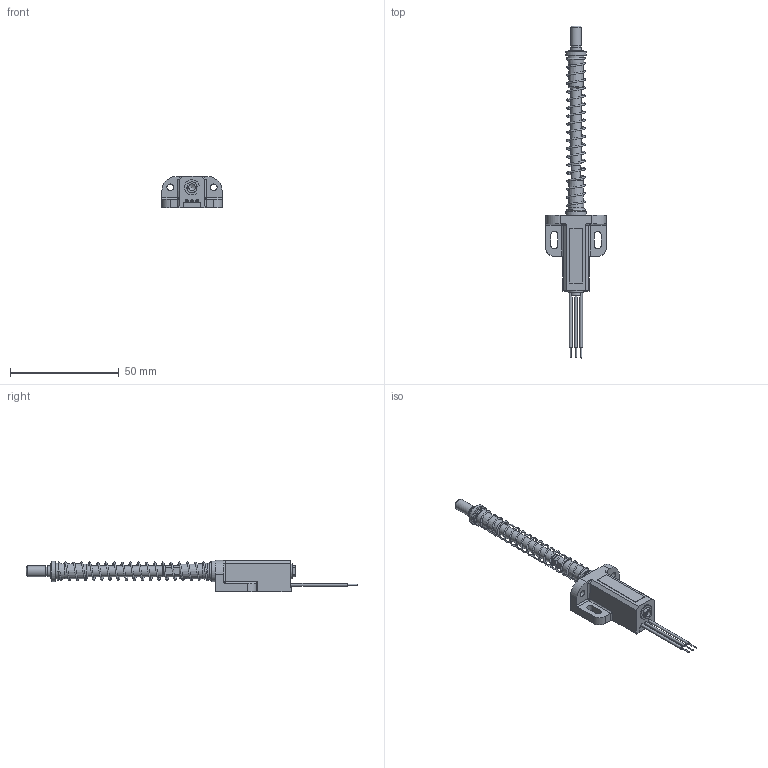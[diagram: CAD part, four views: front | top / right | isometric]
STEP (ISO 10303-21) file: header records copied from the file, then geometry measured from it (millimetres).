
FILE_DESCRIPTION(/* description */ ('Unknown'),/* implementation_level */ '2;1');
FILE_NAME(/* name */ 'RE40LHE_avec_ressort',/* time_stamp */ '2025-04-08T17:13:10+02:00',/* author */ ('Unknown'),/* organization */ ('Unknown'),/* preprocessor_version */ 'ST-DEVELOPER v19.4',/* originating_system */ 'Solid Edge',/* authorisation */ 'Unknown');
FILE_SCHEMA (('AUTOMOTIVE_DESIGN {1 0 10303 214 3 1 1}'));
Length unit declared in the file: millimetre
Products named in the file (12): RE40LHE_avec_ressort; CB00790_M; CG00044_-; CA01014_B; potting3; Fil rouge; Fil vert; cq00089_-; Fil jaune; CD00075_-; CQ00216_-précontraint; CD00072_F
Assembly tree (13 placements, depth 2):
  RE40LHE_avec_ressort
    CB00790_M
    CG00044_-
    CA01014_B
    potting3
    Fil rouge
    Fil vert
    cq00089_-  x2
    Fil jaune
    CD00075_-  x2
    CQ00216_-précontraint
    CD00072_F
Bounding box: 28 x 152.8 x 14.7 mm (x, y, z)
Volume: 9328.1 mm3; surface area: 11284.2 mm2
Topology: 13 solids, 13 shells, 360 faces, 897 edges, 567 vertices
Faces by surface type: plane 170, cylinder 126, cone 25, torus 16, sphere 14, bspline 9
Full cylindrical faces by diameter (mm): 0.5 x6, 1.2 x3, 3.1 x2, 3.15 x1, 4 x2, 4.3 x1, 4.9 x1, 5 x6, 5.2 x1, 7 x2, 7.3 x2
Entity records: 12400 total; most frequent: CARTESIAN_POINT 4170, DIRECTION 1631, ORIENTED_EDGE 1480, EDGE_CURVE 740, AXIS2_PLACEMENT_3D 598, VERTEX_POINT 498, LINE 435, VECTOR 435
